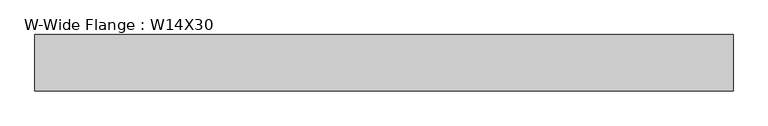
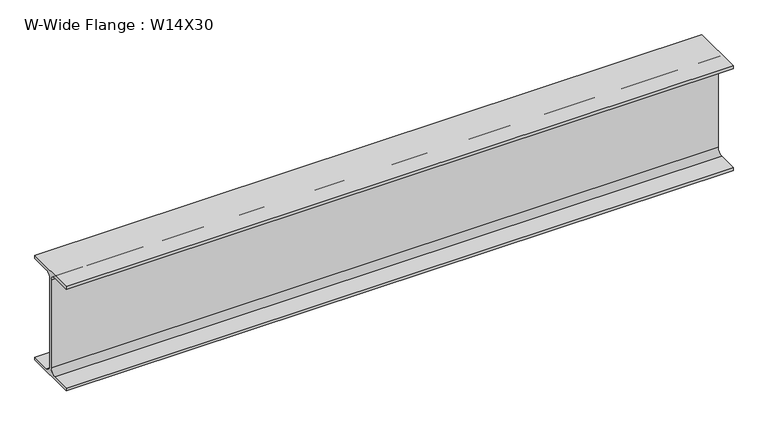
"""IFC4 building model written with IfcOpenShell, lengths in millimetres: beam geometry, W-Wide Flange : W14X30."""

from ifc_helpers import new_model, si_unit, point, frame, frame_2d, origin, place, context, project, spatial, polyline, circle_curve, trimmed, segment, composite_curve, outline, extrude, source, transform, mapped, element, save


def w_wide_flange_w14x30_6e165613(model_context):
    return source(origin(), model_context, "Body", "SweptSolid", [
        extrude(outline(composite_curve([segment(polyline([(85.471, -165.481), (85.471, -175.26), (-85.471, -175.26), (-85.471, -165.481), (-22.225, -165.481)]), True, "CONTINUOUS"), segment(trimmed(circle_curve(frame_2d((-22.225, -146.685)), 18.796), [point((-22.225, -165.481))], [point((-3.429, -146.685))], True, "CARTESIAN"), True, "CONTINUOUS"), segment(polyline([(-3.429, -146.685), (-3.429, 146.685)]), True, "CONTINUOUS"), segment(trimmed(circle_curve(frame_2d((-22.225, 146.685)), 18.796), [point((-3.429, 146.685))], [point((-22.225, 165.481))], True, "CARTESIAN"), True, "CONTINUOUS"), segment(polyline([(-22.225, 165.481), (-85.471, 165.481), (-85.471, 175.26), (85.471, 175.26), (85.471, 165.481), (22.225, 165.481)]), True, "CONTINUOUS"), segment(trimmed(circle_curve(frame_2d((22.225, 146.685)), 18.796), [point((22.225, 165.481))], [point((3.429, 146.685))], True, "CARTESIAN"), True, "CONTINUOUS"), segment(polyline([(3.429, 146.685), (3.429, -146.685)]), True, "CONTINUOUS"), segment(trimmed(circle_curve(frame_2d((22.225, -146.685)), 18.796), [point((3.429, -146.685))], [point((22.225, -165.481))], True, "CARTESIAN"), True, "CONTINUOUS"), segment(polyline([(22.225, -165.481), (85.471, -165.481)]), True, "CONTINUOUS")], self_intersect=False)), frame((-1067.6147122, 0.0, 0.0), z_axis=(1.0, 0.0, 0.0), x_axis=(0.0, 1.0, 0.0)), (0.0, 0.0, 1.0), 2112.737227),
    ])


if __name__ == "__main__":
    model = new_model("IFC4")
    model_context = context("Model", 3, world=origin())
    ifc_project = project(units=[si_unit("LENGTHUNIT", "METRE", prefix="MILLI")], contexts=[model_context])
    site = spatial("IfcSite", under=ifc_project)
    building = spatial("IfcBuilding", under=site)
    placement = place(None, origin())
    w_wide_flange_w14x30_shape = w_wide_flange_w14x30_6e165613(model_context)
    element("IfcBeam", 1, ObjectType="W-Wide Flange : W14X30", at=placement, inside=building, context=model_context, shape_type="MappedRepresentation", body=[
        mapped(w_wide_flange_w14x30_shape, transform((0.0, 0.0, 0.0), x_axis=(1.0, 0.0, 0.0), y_axis=(0.0, 1.0, 0.0), z_axis=(0.0, 0.0, 1.0))),
    ])
    save(model, "model.ifc")
